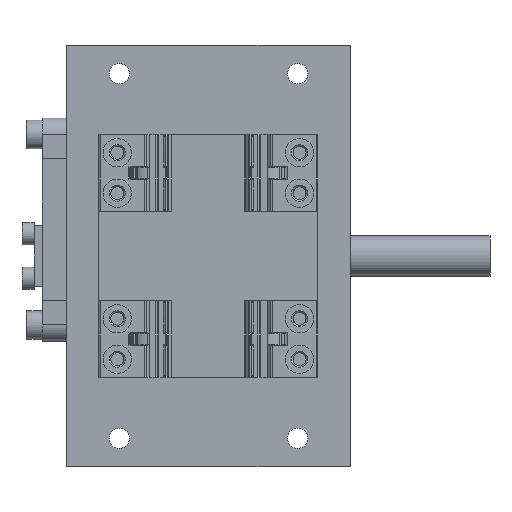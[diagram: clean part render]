
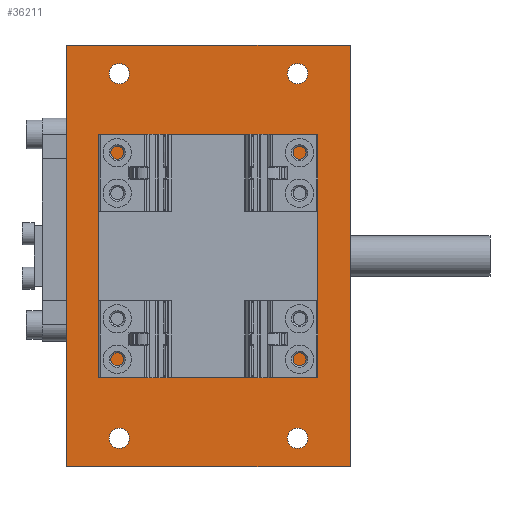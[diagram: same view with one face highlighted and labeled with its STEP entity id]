
A CAD part, front view. The second image highlights one B-rep face of the part: STEP entity #36211.
In plain terms, the highlighted planar face has unit normal (0, -1, 0).
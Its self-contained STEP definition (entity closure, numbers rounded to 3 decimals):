
#74 = AXIS2_PLACEMENT_3D ( 'NONE', #43261, #25228, #22139 ) ;
#338 = LINE ( 'NONE', #36556, #14567 ) ;
#499 = CIRCLE ( 'NONE', #44507, 2.5 ) ;
#504 = EDGE_CURVE ( 'NONE', #27723, #16066, #782, .T. ) ;
#782 = CIRCLE ( 'NONE', #39640, 2.5 ) ;
#1185 = VERTEX_POINT ( 'NONE', #41743 ) ;
#1748 = DIRECTION ( 'NONE',  ( 0., 1., 0. ) ) ;
#2327 = LINE ( 'NONE', #16167, #45039 ) ;
#4354 = PLANE ( 'NONE',  #74 ) ;
#4415 = EDGE_CURVE ( 'NONE', #16066, #27723, #42377, .T. ) ;
#4586 = LINE ( 'NONE', #7658, #37982 ) ;
#5249 = EDGE_CURVE ( 'NONE', #18029, #42711, #2327, .T. ) ;
#7093 = EDGE_CURVE ( 'NONE', #36426, #34939, #499, .T. ) ;
#7197 = EDGE_CURVE ( 'NONE', #30689, #30897, #22435, .T. ) ;
#7377 = CIRCLE ( 'NONE', #10293, 2.5 ) ;
#7658 = CARTESIAN_POINT ( 'NONE',  ( 32.174, -12.432, -51.409 ) ) ;
#9027 = AXIS2_PLACEMENT_3D ( 'NONE', #45258, #37606, #16672 ) ;
#9460 = CARTESIAN_POINT ( 'NONE',  ( 21.674, -12.432, 45.591 ) ) ;
#9579 = EDGE_CURVE ( 'NONE', #18029, #16642, #338, .T. ) ;
#9784 = CARTESIAN_POINT ( 'NONE',  ( 21.674, -12.432, -44.409 ) ) ;
#10121 = ORIENTED_EDGE ( 'NONE', *, *, #33560, .T. ) ;
#10293 = AXIS2_PLACEMENT_3D ( 'NONE', #12046, #40175, #26451 ) ;
#12013 = EDGE_LOOP ( 'NONE', ( #28455, #27341 ) ) ;
#12046 = CARTESIAN_POINT ( 'NONE',  ( 19.174, -12.432, 45.591 ) ) ;
#12456 = DIRECTION ( 'NONE',  ( -1., 0., 0. ) ) ;
#13184 = CARTESIAN_POINT ( 'NONE',  ( 19.174, -12.432, 45.591 ) ) ;
#13271 = CARTESIAN_POINT ( 'NONE',  ( 32.174, -12.432, 50.591 ) ) ;
#13568 = EDGE_LOOP ( 'NONE', ( #42462, #39334 ) ) ;
#13686 = ORIENTED_EDGE ( 'NONE', *, *, #7093, .T. ) ;
#13970 = AXIS2_PLACEMENT_3D ( 'NONE', #36952, #22897, #16174 ) ;
#14567 = VECTOR ( 'NONE', #19604, 1000. ) ;
#14869 = AXIS2_PLACEMENT_3D ( 'NONE', #38519, #31502, #27844 ) ;
#15586 = DIRECTION ( 'NONE',  ( 0., 1., 0. ) ) ;
#16066 = VERTEX_POINT ( 'NONE', #9784 ) ;
#16167 = CARTESIAN_POINT ( 'NONE',  ( -37.826, -12.432, 52.591 ) ) ;
#16174 = DIRECTION ( 'NONE',  ( -1., 0., 0. ) ) ;
#16389 = EDGE_CURVE ( 'NONE', #40727, #1185, #31779, .T. ) ;
#16642 = VERTEX_POINT ( 'NONE', #20461 ) ;
#16672 = DIRECTION ( 'NONE',  ( -1., 0., 0. ) ) ;
#18029 = VERTEX_POINT ( 'NONE', #31181 ) ;
#18115 = DIRECTION ( 'NONE',  ( -1., 0., 0. ) ) ;
#18556 = DIRECTION ( 'NONE',  ( -1., 0., 0. ) ) ;
#19039 = CARTESIAN_POINT ( 'NONE',  ( 16.674, -12.432, 45.591 ) ) ;
#19583 = ORIENTED_EDGE ( 'NONE', *, *, #32243, .F. ) ;
#19604 = DIRECTION ( 'NONE',  ( 0., 0., -1. ) ) ;
#19816 = VERTEX_POINT ( 'NONE', #42188 ) ;
#20076 = EDGE_LOOP ( 'NONE', ( #25285, #19583, #26801, #25369 ) ) ;
#20461 = CARTESIAN_POINT ( 'NONE',  ( -37.826, -12.432, -51.409 ) ) ;
#22139 = DIRECTION ( 'NONE',  ( -1., 0., 0. ) ) ;
#22222 = ORIENTED_EDGE ( 'NONE', *, *, #16389, .T. ) ;
#22435 = CIRCLE ( 'NONE', #14869, 2.5 ) ;
#22787 = CARTESIAN_POINT ( 'NONE',  ( 32.174, -12.432, 52.591 ) ) ;
#22897 = DIRECTION ( 'NONE',  ( 0., 1., 0. ) ) ;
#24365 = AXIS2_PLACEMENT_3D ( 'NONE', #29760, #1748, #12456 ) ;
#24591 = EDGE_LOOP ( 'NONE', ( #22222, #10121 ) ) ;
#25228 = DIRECTION ( 'NONE',  ( 0., 1., 0. ) ) ;
#25285 = ORIENTED_EDGE ( 'NONE', *, *, #9579, .T. ) ;
#25290 = CARTESIAN_POINT ( 'NONE',  ( 16.674, -12.432, -44.409 ) ) ;
#25369 = ORIENTED_EDGE ( 'NONE', *, *, #5249, .F. ) ;
#26451 = DIRECTION ( 'NONE',  ( -1., 0., 0. ) ) ;
#26801 = ORIENTED_EDGE ( 'NONE', *, *, #31491, .F. ) ;
#27076 = CARTESIAN_POINT ( 'NONE',  ( -24.826, -12.432, 45.591 ) ) ;
#27341 = ORIENTED_EDGE ( 'NONE', *, *, #4415, .T. ) ;
#27723 = VERTEX_POINT ( 'NONE', #25290 ) ;
#27844 = DIRECTION ( 'NONE',  ( -1., 0., 0. ) ) ;
#28206 = LINE ( 'NONE', #13271, #38569 ) ;
#28420 = AXIS2_PLACEMENT_3D ( 'NONE', #27076, #36831, #40810 ) ;
#28455 = ORIENTED_EDGE ( 'NONE', *, *, #504, .T. ) ;
#28957 = CARTESIAN_POINT ( 'NONE',  ( 19.174, -12.432, -44.409 ) ) ;
#29760 = CARTESIAN_POINT ( 'NONE',  ( -24.826, -12.432, 45.591 ) ) ;
#30689 = VERTEX_POINT ( 'NONE', #34830 ) ;
#30793 = DIRECTION ( 'NONE',  ( 1., 0., 0. ) ) ;
#30800 = FACE_BOUND ( 'NONE', #12013, .T. ) ;
#30897 = VERTEX_POINT ( 'NONE', #40194 ) ;
#31181 = CARTESIAN_POINT ( 'NONE',  ( -37.826, -12.432, 52.591 ) ) ;
#31491 = EDGE_CURVE ( 'NONE', #42711, #19816, #28206, .T. ) ;
#31502 = DIRECTION ( 'NONE',  ( 0., 1., 0. ) ) ;
#31779 = CIRCLE ( 'NONE', #28420, 2.5 ) ;
#32243 = EDGE_CURVE ( 'NONE', #19816, #16642, #4586, .T. ) ;
#32463 = DIRECTION ( 'NONE',  ( 0., 1., 0. ) ) ;
#32591 = CARTESIAN_POINT ( 'NONE',  ( -27.326, -12.432, 45.591 ) ) ;
#33347 = CIRCLE ( 'NONE', #13970, 2.5 ) ;
#33517 = FACE_BOUND ( 'NONE', #13568, .T. ) ;
#33560 = EDGE_CURVE ( 'NONE', #1185, #40727, #36813, .T. ) ;
#34830 = CARTESIAN_POINT ( 'NONE',  ( -27.326, -12.432, -44.409 ) ) ;
#34939 = VERTEX_POINT ( 'NONE', #9460 ) ;
#36211 = ADVANCED_FACE ( 'NONE', ( #30800, #33517, #38412, #37883, #40091 ), #4354, .F. ) ;
#36426 = VERTEX_POINT ( 'NONE', #19039 ) ;
#36556 = CARTESIAN_POINT ( 'NONE',  ( -37.826, -12.432, 50.591 ) ) ;
#36813 = CIRCLE ( 'NONE', #24365, 2.5 ) ;
#36831 = DIRECTION ( 'NONE',  ( 0., 1., 0. ) ) ;
#36952 = CARTESIAN_POINT ( 'NONE',  ( -24.826, -12.432, -44.409 ) ) ;
#37574 = DIRECTION ( 'NONE',  ( 0., 0., -1. ) ) ;
#37606 = DIRECTION ( 'NONE',  ( 0., 1., 0. ) ) ;
#37883 = FACE_BOUND ( 'NONE', #40271, .T. ) ;
#37982 = VECTOR ( 'NONE', #18556, 1000. ) ;
#38412 = FACE_BOUND ( 'NONE', #24591, .T. ) ;
#38519 = CARTESIAN_POINT ( 'NONE',  ( -24.826, -12.432, -44.409 ) ) ;
#38568 = EDGE_CURVE ( 'NONE', #30897, #30689, #33347, .T. ) ;
#38569 = VECTOR ( 'NONE', #37574, 1000. ) ;
#38843 = DIRECTION ( 'NONE',  ( -1., 0., 0. ) ) ;
#39334 = ORIENTED_EDGE ( 'NONE', *, *, #38568, .T. ) ;
#39640 = AXIS2_PLACEMENT_3D ( 'NONE', #28957, #32463, #18115 ) ;
#40091 = FACE_OUTER_BOUND ( 'NONE', #20076, .T. ) ;
#40175 = DIRECTION ( 'NONE',  ( 0., 1., 0. ) ) ;
#40194 = CARTESIAN_POINT ( 'NONE',  ( -22.326, -12.432, -44.409 ) ) ;
#40271 = EDGE_LOOP ( 'NONE', ( #13686, #42641 ) ) ;
#40727 = VERTEX_POINT ( 'NONE', #32591 ) ;
#40810 = DIRECTION ( 'NONE',  ( -1., 0., 0. ) ) ;
#41347 = EDGE_CURVE ( 'NONE', #34939, #36426, #7377, .T. ) ;
#41743 = CARTESIAN_POINT ( 'NONE',  ( -22.326, -12.432, 45.591 ) ) ;
#42188 = CARTESIAN_POINT ( 'NONE',  ( 32.174, -12.432, -51.409 ) ) ;
#42377 = CIRCLE ( 'NONE', #9027, 2.5 ) ;
#42462 = ORIENTED_EDGE ( 'NONE', *, *, #7197, .T. ) ;
#42641 = ORIENTED_EDGE ( 'NONE', *, *, #41347, .T. ) ;
#42711 = VERTEX_POINT ( 'NONE', #22787 ) ;
#43261 = CARTESIAN_POINT ( 'NONE',  ( 32.174, -12.432, 50.591 ) ) ;
#44507 = AXIS2_PLACEMENT_3D ( 'NONE', #13184, #15586, #38843 ) ;
#45039 = VECTOR ( 'NONE', #30793, 1000. ) ;
#45258 = CARTESIAN_POINT ( 'NONE',  ( 19.174, -12.432, -44.409 ) ) ;
